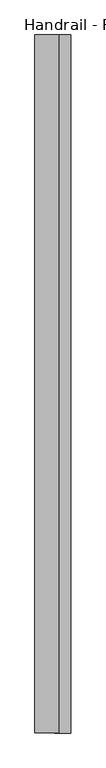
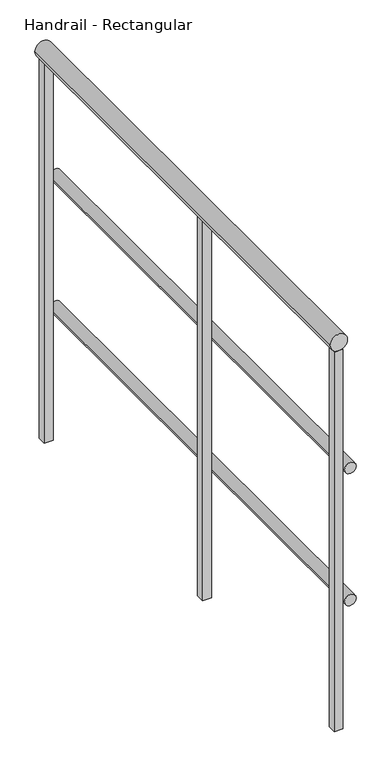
"""IFC4 building model written with IfcOpenShell, lengths in millimetres: railing geometry, Handrail - Rectangular."""

from ifc_helpers import new_model, si_unit, point, frame, frame_2d, origin, place, context, project, spatial, polyline, circle_curve, trimmed, segment, composite_curve, outline, extrude, source, transform, mapped, element, save


def handrail_rectangular_8efd4f22(model_context):
    return source(origin(), model_context, "Body", "SweptSolid", [
        extrude(outline(composite_curve([segment(trimmed(circle_curve(frame_2d((3644.9, -11393.4589563)), 12.7), [point((3644.9, -11380.7589563))], [point((3644.9, -11406.1589563))], False, "CARTESIAN"), True, "CONTINUOUS"), segment(trimmed(circle_curve(frame_2d((3644.9, -11393.4589563)), 12.7), [point((3644.9, -11406.1589563))], [point((3644.9, -11380.7589563))], False, "CARTESIAN"), True, "CONTINUOUS")], self_intersect=False)), frame((0.0, 10624.0316867, 0.0), z_axis=(0.0, 1.0, 0.0), x_axis=(0.0, 0.0, 1.0)), (0.0, 0.0, 1.0), 1117.6),
        extrude(outline(composite_curve([segment(trimmed(circle_curve(frame_2d((3340.1, -11393.4589563)), 12.7), [point((3340.1, -11380.7589563))], [point((3340.1, -11406.1589563))], False, "CARTESIAN"), True, "CONTINUOUS"), segment(trimmed(circle_curve(frame_2d((3340.1, -11393.4589563)), 12.7), [point((3340.1, -11406.1589563))], [point((3340.1, -11380.7589563))], False, "CARTESIAN"), True, "CONTINUOUS")], self_intersect=False)), frame((0.0, 10624.0316867, 0.0), z_axis=(0.0, 1.0, 0.0), x_axis=(0.0, 0.0, 1.0)), (0.0, 0.0, 1.0), 1117.6),
        extrude(outline(composite_curve([segment(trimmed(circle_curve(frame_2d((3943.35, -11418.8589563)), 19.05), [point((3943.35, -11399.8089563))], [point((3943.35, -11437.9089563))], False, "CARTESIAN"), True, "CONTINUOUS"), segment(trimmed(circle_curve(frame_2d((3943.35, -11418.8589563)), 19.05), [point((3943.35, -11437.9089563))], [point((3943.35, -11399.8089563))], False, "CARTESIAN"), True, "CONTINUOUS")], self_intersect=False)), frame((0.0, 10624.0316867, 0.0), z_axis=(0.0, 1.0, 0.0), x_axis=(0.0, 0.0, 1.0)), (0.0, 0.0, 1.0), 1117.6),
        extrude(outline(polyline([(-11428.3839563, 11141.5566867), (-11409.3339563, 11141.5566867), (-11409.3339563, 11122.5066867), (-11428.3839563, 11122.5066867), (-11428.3839563, 11141.5566867)])), frame((0.0, 0.0, 3048.0), z_axis=(0.0, 0.0, 1.0), x_axis=(1.0, 0.0, 0.0)), (0.0, 0.0, 1.0), 876.3),
        extrude(outline(polyline([(-11428.3839563, 10643.0816867), (-11409.3339563, 10643.0816867), (-11409.3339563, 10624.0316867), (-11428.3839563, 10624.0316867), (-11428.3839563, 10643.0816867)])), frame((0.0, 0.0, 3048.0), z_axis=(0.0, 0.0, 1.0), x_axis=(1.0, 0.0, 0.0)), (0.0, 0.0, 1.0), 876.3),
        extrude(outline(polyline([(-11428.3839563, 11741.6316867), (-11409.3339563, 11741.6316867), (-11409.3339563, 11722.5816867), (-11428.3839563, 11722.5816867), (-11428.3839563, 11741.6316867)])), frame((0.0, 0.0, 3048.0), z_axis=(0.0, 0.0, 1.0), x_axis=(1.0, 0.0, 0.0)), (0.0, 0.0, 1.0), 876.3),
    ])


if __name__ == "__main__":
    model = new_model("IFC4")
    model_context = context("Model", 3, world=origin())
    ifc_project = project(units=[si_unit("LENGTHUNIT", "METRE", prefix="MILLI")], contexts=[model_context])
    site = spatial("IfcSite", under=ifc_project)
    building = spatial("IfcBuilding", under=site)
    placement = place(None, origin())
    handrail_rectangular_shape = handrail_rectangular_8efd4f22(model_context)
    element("IfcRailing", 1, ObjectType="Handrail - Rectangular", at=placement, inside=building, context=model_context, shape_type="MappedRepresentation", body=[
        mapped(handrail_rectangular_shape, transform((0.0, 0.0, 0.0), x_axis=(1.0, 0.0, 0.0), y_axis=(0.0, 1.0, 0.0), z_axis=(0.0, 0.0, 1.0))),
    ])
    save(model, "model.ifc")
